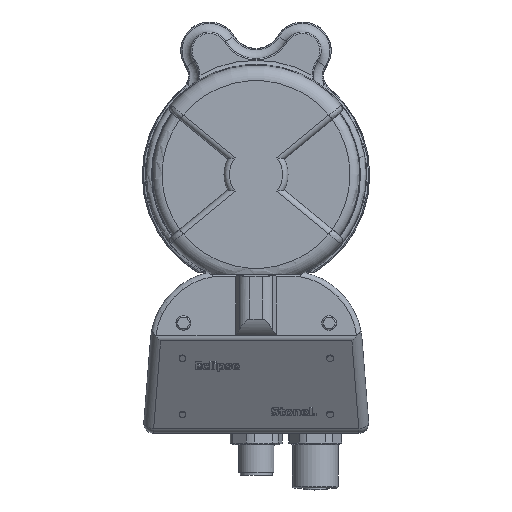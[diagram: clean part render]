
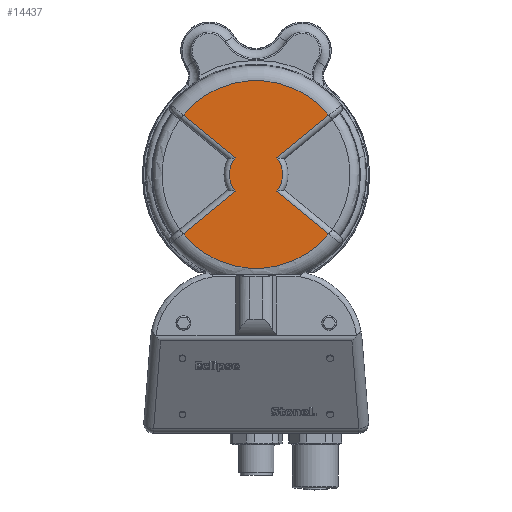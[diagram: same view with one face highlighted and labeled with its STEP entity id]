
A CAD part, top view. The second image highlights one B-rep face of the part: STEP entity #14437.
In plain terms, the highlighted planar face has unit normal (0, 0, 1).
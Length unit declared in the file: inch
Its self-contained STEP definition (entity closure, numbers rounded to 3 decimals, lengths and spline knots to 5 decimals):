
#13913=CARTESIAN_POINT('',(2.07994,2.52781,2.353));
#13914=VERTEX_POINT('',#13913);
#13924=CARTESIAN_POINT('',(0.23266,2.52781,2.353));
#13925=VERTEX_POINT('',#13924);
#13926=CARTESIAN_POINT('',(1.1563,3.281,2.353));
#13927=DIRECTION('',(0.0,0.0,-1.0));
#13928=DIRECTION('',(0.0,-1.0,0.0));
#13929=AXIS2_PLACEMENT_3D('',#13926,#13927,#13928);
#13930=CIRCLE('',#13929,1.19181);
#13931=EDGE_CURVE('',#13914,#13925,#13930,.T.);
#14073=CARTESIAN_POINT('',(2.07994,4.03419,2.353));
#14074=VERTEX_POINT('',#14073);
#14127=CARTESIAN_POINT('',(1.41948,3.49149,2.353));
#14128=VERTEX_POINT('',#14127);
#14129=CARTESIAN_POINT('',(2.07994,4.03419,2.353));
#14130=DIRECTION('',(-0.773,-0.635,0.));
#14131=VECTOR('',#14130,0.85483);
#14132=LINE('',#14129,#14131);
#14133=EDGE_CURVE('',#14074,#14128,#14132,.T.);
#14239=CARTESIAN_POINT('',(1.41948,3.07051,2.353));
#14240=VERTEX_POINT('',#14239);
#14241=CARTESIAN_POINT('',(1.1563,3.281,2.353));
#14242=DIRECTION('',(0.0,0.0,-1.0));
#14243=DIRECTION('',(1.0,0.0,0.0));
#14244=AXIS2_PLACEMENT_3D('',#14241,#14242,#14243);
#14245=CIRCLE('',#14244,0.337);
#14246=EDGE_CURVE('',#14128,#14240,#14245,.T.);
#14339=CARTESIAN_POINT('',(1.41948,3.07051,2.353));
#14340=DIRECTION('',(0.773,-0.635,0.));
#14341=VECTOR('',#14340,0.85483);
#14342=LINE('',#14339,#14341);
#14343=EDGE_CURVE('',#14240,#13914,#14342,.T.);
#14394=CARTESIAN_POINT('',(1.1563,2.6851,2.353));
#14395=DIRECTION('',(0.0,0.0,1.0));
#14396=DIRECTION('',(-1.0,0.0,0.0));
#14397=AXIS2_PLACEMENT_3D('',#14394,#14395,#14396);
#14398=PLANE('',#14397);
#14399=ORIENTED_EDGE('',*,*,#14343,.F.);
#14400=ORIENTED_EDGE('',*,*,#14246,.F.);
#14401=ORIENTED_EDGE('',*,*,#14133,.F.);
#14402=CARTESIAN_POINT('',(0.23266,4.03419,2.353));
#14403=VERTEX_POINT('',#14402);
#14404=CARTESIAN_POINT('',(1.1563,3.281,2.353));
#14405=DIRECTION('',(0.0,0.0,-1.0));
#14406=DIRECTION('',(0.0,-1.0,0.0));
#14407=AXIS2_PLACEMENT_3D('',#14404,#14405,#14406);
#14408=CIRCLE('',#14407,1.19181);
#14409=EDGE_CURVE('',#14403,#14074,#14408,.T.);
#14410=ORIENTED_EDGE('',*,*,#14409,.F.);
#14411=CARTESIAN_POINT('',(0.89312,3.49149,2.353));
#14412=VERTEX_POINT('',#14411);
#14413=CARTESIAN_POINT('',(0.89312,3.49149,2.353));
#14414=DIRECTION('',(-0.773,0.635,0.));
#14415=VECTOR('',#14414,0.85483);
#14416=LINE('',#14413,#14415);
#14417=EDGE_CURVE('',#14412,#14403,#14416,.T.);
#14418=ORIENTED_EDGE('',*,*,#14417,.F.);
#14419=CARTESIAN_POINT('',(0.89312,3.07051,2.353));
#14420=VERTEX_POINT('',#14419);
#14421=CARTESIAN_POINT('',(1.1563,3.281,2.353));
#14422=DIRECTION('',(0.0,0.0,-1.0));
#14423=DIRECTION('',(-1.0,0.0,0.0));
#14424=AXIS2_PLACEMENT_3D('',#14421,#14422,#14423);
#14425=CIRCLE('',#14424,0.337);
#14426=EDGE_CURVE('',#14420,#14412,#14425,.T.);
#14427=ORIENTED_EDGE('',*,*,#14426,.F.);
#14428=CARTESIAN_POINT('',(0.23266,2.52781,2.353));
#14429=DIRECTION('',(0.773,0.635,0.));
#14430=VECTOR('',#14429,0.85483);
#14431=LINE('',#14428,#14430);
#14432=EDGE_CURVE('',#13925,#14420,#14431,.T.);
#14433=ORIENTED_EDGE('',*,*,#14432,.F.);
#14434=ORIENTED_EDGE('',*,*,#13931,.F.);
#14435=EDGE_LOOP('',(#14399,#14400,#14401,#14410,#14418,#14427,#14433,#14434));
#14436=FACE_OUTER_BOUND('',#14435,.T.);
#14437=ADVANCED_FACE('',(#14436),#14398,.T.);
